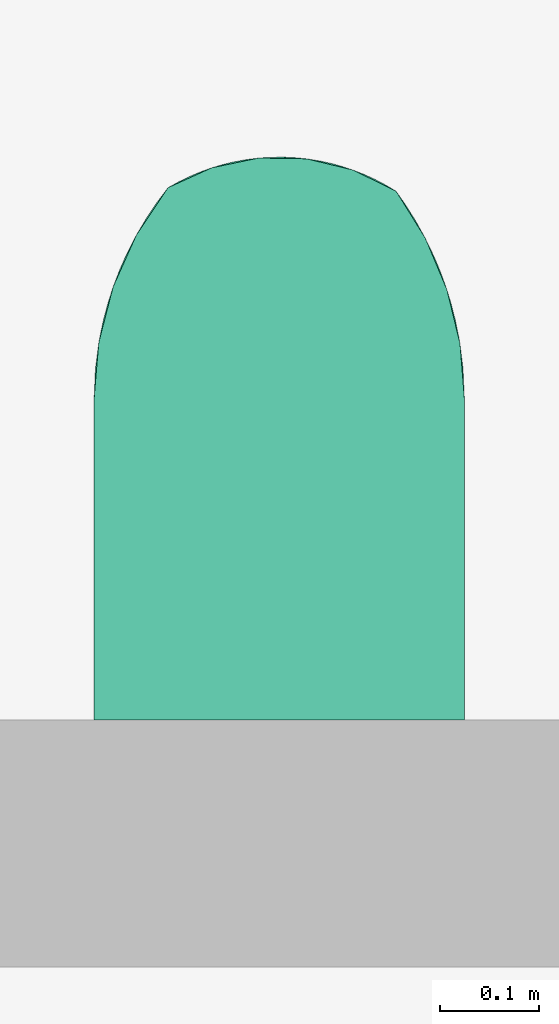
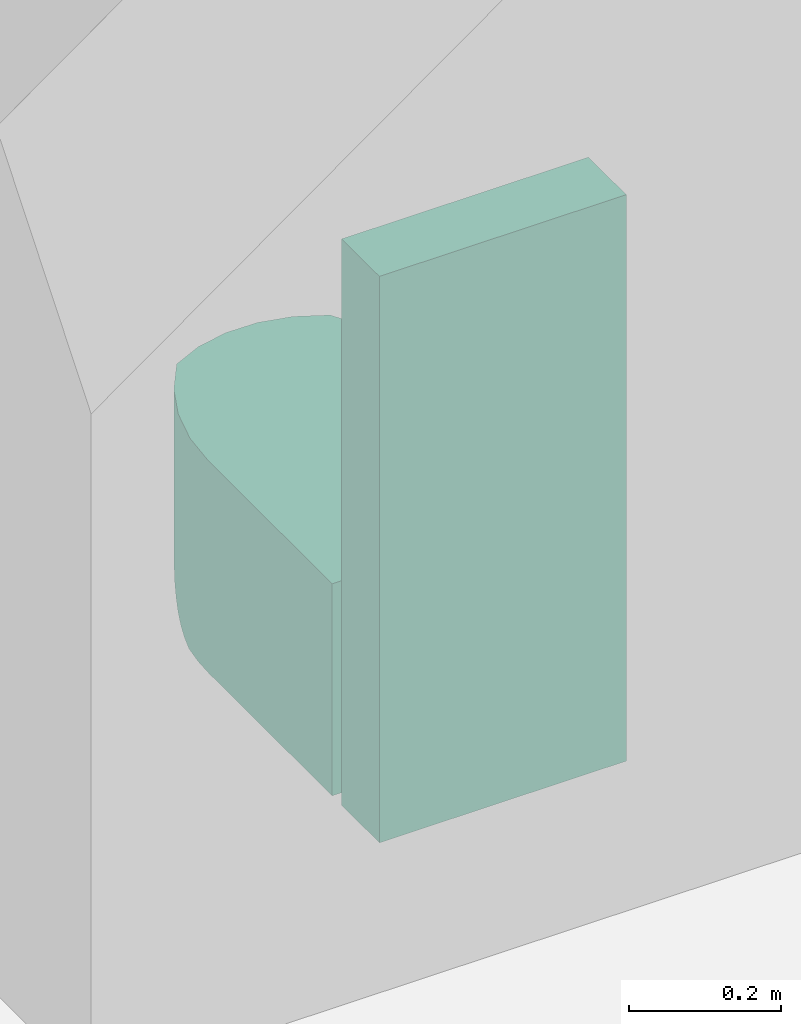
# One storey, part 34 of 37: 1 flow terminal.
"""IFC2X3 building model written with IfcOpenShell, lengths in millimetres."""

import ifcopenshell
import ifcopenshell.guid

model = None  # the IFC model being written
_history = None  # IfcOwnerHistory: only IFC2X3 demands one
_inside = {}  # id of a spatial element -> (the spatial element, [elements in it])
_under = {}  # id of a project, library or spatial element -> (it, [spatial elements below it])
_declared = {}  # id of a project -> (the project, [libraries it declares])
_typed = {}  # id of a type object -> (the type object, [elements of that type])
_made_of = {}  # id of a material, layer set ... -> (it, [elements and type objects made of it])


def new_model(schema):
    """Start an empty IFC model of exactly this schema.

    Asked for "IFC4X3", IfcOpenShell would pick the latest addendum, in which some entities
    have other attributes; the version numbers below select the first issue.
    IFC2X3 requires an IfcOwnerHistory on every rooted entity: one is made here for all.
    """
    global model, _history
    if schema == "IFC4X3":
        model = ifcopenshell.file(schema_version=(4, 3, 0, 0))
    else:
        model = ifcopenshell.file(schema=schema)
    _inside.clear()
    _under.clear()
    _declared.clear()
    _typed.clear()
    _made_of.clear()
    _history = None
    if model.schema == "IFC2X3":
        org = make("IfcOrganization", Name="unknown")
        user = make(
            "IfcPersonAndOrganization",
            ThePerson=make("IfcPerson", FamilyName="unknown"),
            TheOrganization=org,
        )
        app = make(
            "IfcApplication",
            ApplicationDeveloper=org,
            Version="unknown",
            ApplicationFullName="unknown",
            ApplicationIdentifier="unknown",
        )
        _history = make(
            "IfcOwnerHistory",
            OwningUser=user,
            OwningApplication=app,
            ChangeAction="ADDED",
            CreationDate=0,
        )
    return model


def make(cls, **values):
    """One entity of the class cls with the attributes given. An attribute that is None is left unset."""
    return model.create_entity(
        cls, **{name: value for name, value in values.items() if value is not None}
    )


def entity(cls, *values):
    """Any entity or typed value of the class cls, its attributes in the order of the schema. None: left unset."""
    e = model.create_entity(cls)
    for i, value in enumerate(values):
        if value is not None:
            e[i] = value
    return e


def rooted(cls, **values):
    """An entity with a GlobalId (a new one), such as an element, a storey or a relation."""
    return make(cls, GlobalId=ifcopenshell.guid.new(), OwnerHistory=_history, **values)


def si_unit(unit_type, name, prefix=None):
    """IfcSIUnit, for example si_unit("LENGTHUNIT", "METRE", prefix="MILLI")."""
    return make("IfcSIUnit", UnitType=unit_type, Prefix=prefix, Name=name)


def converted_unit(unit_type, name, factor, base, dimensions=None, offset=None):
    """IfcConversionBasedUnit, such as the inch: factor (a typed value) times the base unit."""
    return make(
        "IfcConversionBasedUnit"
        if offset is None
        else "IfcConversionBasedUnitWithOffset",
        ConversionOffset=offset,
        Dimensions=None
        if dimensions is None
        else entity("IfcDimensionalExponents", *dimensions),
        UnitType=unit_type,
        Name=name,
        ConversionFactor=make(
            "IfcMeasureWithUnit", ValueComponent=factor, UnitComponent=base
        ),
    )


def derived_unit(unit_type, elements):
    """IfcDerivedUnit: a product of units, each with its exponent."""
    return make(
        "IfcDerivedUnit",
        Elements=[
            make("IfcDerivedUnitElement", Unit=unit, Exponent=power)
            for unit, power in elements
        ],
        UnitType=unit_type,
    )


def assignment(units):
    """IfcUnitAssignment: the units of a project."""
    return None if units is None else make("IfcUnitAssignment", Units=units)


def point(xyz):
    """IfcCartesianPoint."""
    return None if xyz is None else make("IfcCartesianPoint", Coordinates=xyz)


def direction(xyz):
    """IfcDirection."""
    return None if xyz is None else make("IfcDirection", DirectionRatios=xyz)


def frame(location, z_axis=None, x_axis=None):
    """IfcAxis2Placement3D, a coordinate frame: its origin and axes. An axis left out is left unset."""
    return make(
        "IfcAxis2Placement3D",
        Location=point(location),
        Axis=direction(z_axis),
        RefDirection=direction(x_axis),
    )


def origin():
    """The frame at (0, 0, 0) with its axes left unset."""
    return frame((0.0, 0.0, 0.0))


def origin_with_axes():
    """The frame at (0, 0, 0) with the z axis (0, 0, 1) and the x axis (1, 0, 0) written out."""
    return frame((0.0, 0.0, 0.0), z_axis=(0.0, 0.0, 1.0), x_axis=(1.0, 0.0, 0.0))


def place(relative_to, where):
    """IfcLocalPlacement: puts the frame where relative to a parent placement (None: the world)."""
    return make(
        "IfcLocalPlacement", PlacementRelTo=relative_to, RelativePlacement=where
    )


def context(
    kind, dimensions, precision=None, world=None, true_north=None, identifier=None
):
    """IfcGeometricRepresentationContext, for example the 3D "Model" context."""
    return make(
        "IfcGeometricRepresentationContext",
        ContextIdentifier=identifier,
        ContextType=kind,
        CoordinateSpaceDimension=dimensions,
        Precision=precision,
        WorldCoordinateSystem=world,
        TrueNorth=true_north,
    )


def subcontext(parent, identifier, kind, view, scale=None):
    """IfcGeometricRepresentationSubContext, for example "Body" below "Model"."""
    return make(
        "IfcGeometricRepresentationSubContext",
        ContextIdentifier=identifier,
        ContextType=kind,
        ParentContext=parent,
        TargetScale=scale,
        TargetView=view,
    )


def project(units=None, contexts=None):
    """IfcProject with its units and contexts."""
    return rooted(
        "IfcProject",
        Name="project",
        RepresentationContexts=contexts,
        UnitsInContext=assignment(units),
    )


def spatial(cls, under=None, at=None, **own):
    """A site, building, storey or space (cls), placed at a placement, below another one or the project."""
    s = rooted(cls, ObjectPlacement=at, **own)
    if under is not None:
        _under.setdefault(under.id(), (under, []))[1].append(s)
    return s


def faces_of(points, faces, orient=None, outer=None):
    """IfcFace entities. A face is a list of loops; a loop is a list of indices into points, from 0.

    orient and outer hold one flag for each loop. By default every Orientation is true, the
    first loop of a face is its IfcFaceOuterBound and the others are IfcFaceBound.
    """
    made = []
    for i, loops in enumerate(faces):
        bounds = []
        for j, loop in enumerate(loops):
            is_outer = j == 0 if outer is None else outer[i][j]
            bounds.append(
                make(
                    "IfcFaceOuterBound" if is_outer else "IfcFaceBound",
                    Bound=make("IfcPolyLoop", Polygon=[points[k] for k in loop]),
                    Orientation=True if orient is None else orient[i][j],
                )
            )
        made.append(make("IfcFace", Bounds=bounds))
    return made


def faceted_brep(points, faces, orient=None, outer=None, voids=None):
    """IfcFacetedBrep: a solid bounded by flat faces; with voids (closed shells), ...WithVoids."""
    shared = [point(p) for p in points]
    hull = make("IfcClosedShell", CfsFaces=faces_of(shared, faces, orient, outer))
    if voids is None:
        return make("IfcFacetedBrep", Outer=hull)
    return make(
        "IfcFacetedBrepWithVoids",
        Outer=hull,
        Voids=[
            make(cls, CfsFaces=faces_of(shared, fs, o, b)) for cls, fs, o, b in voids
        ],
    )


def shape(context_of_items, identifier, shape_type, items):
    """IfcShapeRepresentation: the items that make up one representation, for example the "Body"."""
    return make(
        "IfcShapeRepresentation",
        ContextOfItems=context_of_items,
        RepresentationIdentifier=identifier,
        RepresentationType=shape_type,
        Items=items,
    )


def source(mapping_origin, context_of_items, identifier, shape_type, items):
    """IfcRepresentationMap: a shape defined once, which mapped items show again and again."""
    return make(
        "IfcRepresentationMap",
        MappingOrigin=mapping_origin,
        MappedRepresentation=shape(context_of_items, identifier, shape_type, items),
    )


def transform(
    local_origin,
    x_axis=None,
    y_axis=None,
    z_axis=None,
    scale=None,
    scale2=None,
    scale3=None,
    uniform=True,
):
    """IfcCartesianTransformationOperator3D, or its non-uniform kind. x_axis, y_axis, z_axis: its Axis1, 2, 3."""
    if uniform:
        return make(
            "IfcCartesianTransformationOperator3D",
            Axis1=direction(x_axis),
            Axis2=direction(y_axis),
            LocalOrigin=point(local_origin),
            Scale=scale,
            Axis3=direction(z_axis),
        )
    return make(
        "IfcCartesianTransformationOperator3DnonUniform",
        Axis1=direction(x_axis),
        Axis2=direction(y_axis),
        LocalOrigin=point(local_origin),
        Scale=scale,
        Axis3=direction(z_axis),
        Scale2=scale2,
        Scale3=scale3,
    )


def mapped(mapping_source, mapping_target):
    """IfcMappedItem: shows the shape of a source again, moved by a transform."""
    return make(
        "IfcMappedItem", MappingSource=mapping_source, MappingTarget=mapping_target
    )


def material(Name=None, Category=None):
    """IfcMaterial."""
    return make("IfcMaterial", Name=Name, Category=Category)


def made_of(thing, what):
    """Note that an element or type object is made of a material, layer set ...; save() writes the relation."""
    if what is not None:
        _made_of.setdefault(what.id(), (what, []))[1].append(thing)
    return thing


def type_object(cls, material=None, **own):
    """A type object (cls), such as IfcWallType, which elements share."""
    return made_of(rooted(cls, **own), material)


def element(
    cls,
    number,
    at=None,
    inside=None,
    cuts=None,
    type_object=None,
    material=None,
    context=None,
    identifier="Body",
    shape_type=None,
    held_by="IfcProductDefinitionShape",
    body=None,
    shapes=None,
    **own,
):
    """One element of the class cls, such as IfcWall. Its Tag is "e" and its number.

    at: its placement. inside: the storey or other place that contains it. cuts: it is an
    opening in that element (IfcRelVoidsElement). A single representation is given by context,
    identifier, shape_type and body (its items); several are given by shapes. held_by: the class
    of the entity that holds the representations. save() writes the other relations.
    """
    e = rooted(cls, Tag="e%d" % number, ObjectPlacement=at, **own)
    if body is not None:
        shapes = [shape(context, identifier, shape_type, body)]
    if shapes is not None:
        e.Representation = make(held_by, Representations=shapes)
    if inside is not None:
        _inside.setdefault(inside.id(), (inside, []))[1].append(e)
    if cuts is not None:
        rooted(
            "IfcRelVoidsElement", RelatingBuildingElement=cuts, RelatedOpeningElement=e
        )
    if type_object is not None:
        _typed.setdefault(type_object.id(), (type_object, []))[1].append(e)
    return made_of(e, material)


def aggregate(whole, parts):
    """IfcRelAggregates: a whole, such as a stair, and the parts it consists of."""
    return rooted("IfcRelAggregates", RelatingObject=whole, RelatedObjects=parts)


def save(model, path):
    """Write the relations noted so far, then the file.

    IfcRelAggregates (storeys below a building ...), IfcRelContainedInSpatialStructure (elements
    in a storey), IfcRelDefinesByType, IfcRelAssociatesMaterial and IfcRelDeclares: one each for
    every whole, place, type object, material and project.
    """
    for whole, parts in _under.values():
        aggregate(whole, parts)
    for where, things in _inside.values():
        rooted(
            "IfcRelContainedInSpatialStructure",
            RelatedElements=things,
            RelatingStructure=where,
        )
    for kind, things in _typed.values():
        rooted("IfcRelDefinesByType", RelatedObjects=things, RelatingType=kind)
    for what, things in _made_of.values():
        rooted("IfcRelAssociatesMaterial", RelatedObjects=things, RelatingMaterial=what)
    for by, libraries in _declared.values():
        rooted("IfcRelDeclares", RelatingContext=by, RelatedDefinitions=libraries)
    model.write(path)


model = new_model("IFC2X3")

# Units and contexts
model_context = context("Model", 3, precision=0.01, world=frame((0.0, 4.29681676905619e-09, 0.0)), true_north=direction((4.01073788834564e-13, 1.0)))
plan_context = context("Plan", 3, precision=0.01, world=frame((0.0, 4.29681676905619e-09, 0.0)), true_north=direction((4.01073788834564e-13, 1.0)))
body_context = subcontext(model_context, "Body", "Model", "MODEL_VIEW")
ifc_project = project(units=[converted_unit("PLANEANGLEUNIT", "DEGREE", entity("IfcPositiveLengthMeasure", 0.0174532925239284), si_unit("PLANEANGLEUNIT", "RADIAN"), dimensions=[0, 0, 0, 0, 0, 0, 0]), si_unit("AREAUNIT", "SQUARE_METRE"), si_unit("LENGTHUNIT", "METRE", prefix="MILLI"), si_unit("MASSUNIT", "GRAM", prefix="KILO"), si_unit("POWERUNIT", "WATT"), si_unit("PRESSUREUNIT", "PASCAL"), si_unit("FORCEUNIT", "NEWTON", prefix="KILO"), si_unit("ELECTRICVOLTAGEUNIT", "VOLT"), si_unit("ELECTRICCURRENTUNIT", "AMPERE"), si_unit("THERMODYNAMICTEMPERATUREUNIT", "DEGREE_CELSIUS"), si_unit("TIMEUNIT", "SECOND"), si_unit("VOLUMEUNIT", "CUBIC_METRE"), derived_unit("LINEARVELOCITYUNIT", [(si_unit("LENGTHUNIT", "METRE"), 1), (si_unit("TIMEUNIT", "SECOND"), -1)]), derived_unit("VOLUMETRICFLOWRATEUNIT", [(si_unit("VOLUMEUNIT", "CUBIC_METRE"), 1), (si_unit("TIMEUNIT", "SECOND"), -1)]), derived_unit("THERMALTRANSMITTANCEUNIT", [(si_unit("POWERUNIT", "WATT"), 1), (si_unit("THERMODYNAMICTEMPERATUREUNIT", "KELVIN"), -1), (si_unit("AREAUNIT", "SQUARE_METRE"), -1)]), derived_unit("SOUNDPRESSUREUNIT", [(si_unit("PRESSUREUNIT", "PASCAL"), 1)])], contexts=[model_context, plan_context])

# Site, building, storey
site_placement = place(None, origin_with_axes())
site = spatial("IfcSite", under=ifc_project, at=site_placement, Name="ENGM", CompositionType="ELEMENT")
building_placement = place(site_placement, origin_with_axes())
building = spatial("IfcBuilding", under=site, at=building_placement, Name="TS", CompositionType="ELEMENT")
storey_placement = place(building_placement, frame((0.0, 0.0, 210900.0), z_axis=(0.0, 0.0, 1.0), x_axis=(1.0, 0.0, 0.0)))
storey = spatial("IfcBuildingStorey", under=building, at=storey_placement, Name="Nivå F", CompositionType="ELEMENT", Elevation=210900.0)

# Flow terminal
ifc_material = material(Name="<Unnamed>")
distribution_element_type = type_object("IfcDistributionElementType", Name="V313 - WC vegghengt kompakt:A313 - WC vegghengt kompakt - 375 x 570 mm", material=ifc_material)
shared_shape = source(origin(), body_context, "Body", "Brep", [
    faceted_brep([(152.638753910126, 693.256243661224, -210610.301735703), (199.83356795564, 681.875792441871, -210610.301735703), (243.381359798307, 660.417577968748, -210610.301735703), (273.042360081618, 612.621845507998, -210610.301735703), (294.777786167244, 560.739495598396, -210610.301735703), (308.041436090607, 506.074309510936, -210610.301735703), (312.499999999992, 450.0, -210610.301735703), (312.499999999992, 125.0, -210610.301735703), (-62.500000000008, 125.0, -210610.301735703), (-62.5000000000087, 450.0, -210610.301735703), (-57.650228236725, 507.488184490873, -210610.301735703), (-43.2379969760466, 563.351403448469, -210610.301735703), (-19.6706834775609, 616.010622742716, -210610.301735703), (12.3855567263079, 663.977372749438, -210610.301735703), (56.573882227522, 684.083516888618, -210610.301735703), (104.096962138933, 694.004304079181, -210610.301735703), (312.499999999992, 450.0, -210559.4), (312.499999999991, 125.0, -210559.4), (-62.500000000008, 125.0, -210559.4), (308.041436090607, 506.074309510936, -210559.4), (294.777786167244, 560.739495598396, -210559.4), (273.042360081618, 612.621845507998, -210559.4), (243.381359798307, 660.417577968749, -210559.4), (199.83356795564, 681.875792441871, -210559.4), (152.638753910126, 693.256243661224, -210559.4), (104.096962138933, 694.004304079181, -210559.4), (56.573882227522, 684.083516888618, -210559.4), (12.3855567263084, 663.977372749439, -210559.4), (-19.6706834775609, 616.010622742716, -210559.4), (-43.2379969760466, 563.351403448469, -210559.4), (-57.650228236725, 507.488184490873, -210559.4), (-62.5000000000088, 450.0, -210559.4)], [[[0, 1, 2, 3, 4, 5, 6, 7, 8, 9, 10, 11, 12, 13, 14, 15]], [[16, 17, 7, 6]], [[18, 17, 16, 19, 20, 21, 22, 23, 24, 25, 26, 27, 28, 29, 30, 31]], [[27, 13, 12, 28]], [[29, 28, 12, 11]], [[10, 9, 31, 30]], [[10, 30, 29, 11]], [[18, 31, 9, 8]], [[5, 4, 20, 19]], [[5, 19, 16, 6]], [[3, 2, 22, 21]], [[3, 21, 20, 4]], [[23, 22, 2, 1]], [[24, 23, 1, 0]], [[0, 15, 25, 24]], [[14, 13, 27, 26]], [[15, 14, 26, 25]], [[17, 18, 8, 7]]]),
    faceted_brep([(273.042360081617, 612.621845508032, -210610.301735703), (243.381359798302, 660.417577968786, -210610.301735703), (199.833567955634, 681.875792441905, -210610.301735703), (152.638753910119, 693.256243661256, -210610.301735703), (140.50330596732, 693.443258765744, -210610.301735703), (134.435581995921, 693.536766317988, -210610.301735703), (131.401720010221, 693.58352009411, -210610.301735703), (129.884789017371, 693.606896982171, -210610.301735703), (128.367858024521, 693.630273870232, -210610.301735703), (125.333996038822, 693.677027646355, -210610.301735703), (122.300134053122, 693.723781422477, -210610.301735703), (116.232410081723, 693.817288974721, -210610.301735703), (110.164686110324, 693.910796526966, -210610.301735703), (104.096962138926, 694.004304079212, -210610.301735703), (80.3354221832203, 689.043910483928, -210610.301735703), (56.5738822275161, 684.083516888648, -210610.301735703), (12.3855567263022, 663.977372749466, -210610.301735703), (-19.6706834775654, 616.010622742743, -210610.301735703), (-43.2379969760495, 563.351403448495, -210610.301735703), (-57.6502282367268, 507.4881844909, -210610.301735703), (-62.5000000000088, 450.0, -210610.301735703), (-62.500000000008, 125.0, -210610.301735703), (312.499999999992, 125.0, -210610.301735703), (312.499999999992, 450.0, -210610.301735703), (308.041436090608, 506.074309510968, -210610.301735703), (294.777786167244, 560.739495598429, -210610.301735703), (-61.1031175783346, 480.93110005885, -210900.010758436), (-48.1437180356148, 548.217375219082, -210887.564946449), (-42.7067744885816, 564.858056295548, -210878.177732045), (-52.9502459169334, 530.391694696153, -210894.898032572), (-62.5000000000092, 450.0, -210900.010758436), (-56.9238430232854, 511.610374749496, -210900.010758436), (1.74503360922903, 649.910275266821, -210776.42460517), (-9.31195687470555, 633.505127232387, -210803.762452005), (12.3855567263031, 663.977372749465, -210747.660169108), (12.3855567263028, 663.977372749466, -210682.93536077), (12.3855567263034, 663.977372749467, -210715.297764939), (-36.868116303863, 580.131619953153, -210866.90008785), (-30.8780924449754, 593.882788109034, -210853.885845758), (-20.3272252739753, 614.817316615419, -210829.611974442), (-62.500000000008, 125.0, -210900.010758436), (312.499999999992, 125.0, -210900.010758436), (307.110499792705, 511.610374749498, -210900.010758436), (311.150057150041, 480.922827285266, -210900.010758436), (312.499999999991, 450.0, -210900.010758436), (303.278596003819, 530.369907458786, -210894.905452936), (298.644927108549, 548.187936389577, -210887.579243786), (293.405556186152, 564.8328156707, -210878.19408601), (287.782756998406, 580.117972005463, -210866.911512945), (282.020191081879, 593.882788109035, -210853.885845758), (272.606520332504, 613.464345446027, -210831.31404652), (262.803503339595, 631.106218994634, -210807.353062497), (243.381359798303, 660.417577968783, -210755.556395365), (232.95014859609, 666.681267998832, -210741.312497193), (22.9359172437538, 669.880572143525, -210733.347484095), (252.94345421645, 646.77352419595, -210782.079772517), (222.311477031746, 672.297801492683, -210726.950463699), (33.678414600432, 675.142004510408, -210718.928318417), (211.491347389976, 677.277240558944, -210712.489897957), (55.6518587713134, 683.779385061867, -210689.840668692), (200.510965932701, 681.62939388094, -210697.948002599), (44.5902870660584, 679.771967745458, -210704.419997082), (66.8490827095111, 687.172272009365, -210675.209194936), (189.38792267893, 685.362721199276, -210683.343205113), (166.745860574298, 691.001317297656, -210654.035518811), (78.1763153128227, 689.957302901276, -210660.549818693), (89.6481636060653, 692.139901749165, -210645.90124219), (101.344093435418, 693.723958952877, -210631.353364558), (155.192255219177, 692.917543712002, -210639.414516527), (178.133260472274, 688.484643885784, -210668.696158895), (113.689638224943, 694.708952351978, -210617.300227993), (143.314059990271, 694.236080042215, -210624.98926797), (131.627520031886, 694.855599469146, -210613.580281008), (133.297025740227, 694.76709669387, -210615.210136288), (136.636037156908, 694.590091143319, -210618.469846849), (117.756732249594, 694.767739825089, -210615.962777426), (121.823826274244, 694.8265272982, -210614.62532686), (125.890920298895, 694.885314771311, -210613.287876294), (127.92446731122, 694.914708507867, -210612.619151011), (129.958014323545, 694.944102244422, -210611.950425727), (243.381359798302, 660.417577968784, -210690.831598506), (243.381359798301, 660.417577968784, -210723.193996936)], [[[0, 1, 2, 3, 4, 5, 6, 7, 8, 9, 10, 11, 12, 13, 14, 15, 16, 17, 18, 19, 20, 21, 22, 23, 24, 25]], [[26, 20, 19]], [[27, 18, 28]], [[18, 27, 19]], [[29, 19, 27]], [[30, 20, 26]], [[31, 26, 19]], [[29, 31, 19]], [[17, 32, 33]], [[32, 17, 34]], [[17, 16, 35, 36, 34]], [[18, 37, 28]], [[37, 18, 38]], [[39, 38, 18]], [[17, 33, 39]], [[17, 39, 18]], [[22, 21, 40, 41]], [[30, 40, 21, 20]], [[26, 31, 42, 43, 44, 41, 40, 30]], [[23, 22, 41, 44]], [[42, 31, 29]], [[45, 29, 27]], [[29, 45, 42]], [[45, 27, 46]], [[27, 28, 46]], [[47, 28, 37]], [[48, 37, 38]], [[37, 48, 47]], [[48, 38, 49]], [[28, 47, 46]], [[39, 50, 38]], [[33, 51, 39]], [[52, 32, 34]], [[53, 34, 54]], [[33, 32, 55]], [[56, 54, 57]], [[39, 51, 50]], [[50, 49, 38]], [[52, 34, 53]], [[55, 32, 52]], [[55, 51, 33]], [[54, 56, 53]], [[57, 58, 56]], [[59, 60, 61]], [[62, 63, 59]], [[64, 65, 66]], [[66, 67, 68]], [[62, 65, 69]], [[70, 71, 67]], [[69, 63, 62]], [[60, 59, 63]], [[61, 60, 58]], [[71, 68, 67]], [[64, 66, 68]], [[64, 69, 65]], [[72, 73, 74, 71, 70, 75, 76, 77, 78, 79]], [[61, 58, 57]], [[15, 59, 35]], [[14, 13, 67]], [[15, 14, 65]], [[67, 13, 70]], [[67, 66, 14]], [[9, 8, 78]], [[80, 81, 56]], [[70, 13, 12, 11]], [[16, 15, 35]], [[54, 36, 57]], [[5, 72, 6]], [[10, 75, 11]], [[56, 81, 53]], [[59, 61, 35]], [[79, 8, 7, 6]], [[61, 57, 35]], [[5, 74, 73, 72]], [[15, 62, 59]], [[15, 65, 62]], [[65, 14, 66]], [[79, 6, 72]], [[71, 4, 3]], [[71, 3, 68]], [[11, 75, 70]], [[64, 2, 69]], [[54, 34, 36]], [[68, 3, 64]], [[1, 80, 2]], [[64, 3, 2]], [[4, 71, 74]], [[2, 60, 63]], [[63, 69, 2]], [[77, 76, 75, 10]], [[80, 58, 60]], [[8, 79, 78]], [[58, 80, 56]], [[80, 60, 2]], [[78, 77, 9]], [[52, 53, 81]], [[4, 74, 5]], [[77, 10, 9]], [[36, 35, 57]], [[0, 52, 81, 80, 1]], [[55, 0, 51]], [[0, 55, 52]], [[51, 0, 50]], [[25, 49, 50]], [[25, 48, 49]], [[25, 50, 0]], [[46, 47, 25]], [[25, 47, 48]], [[46, 25, 24]], [[43, 24, 23]], [[46, 24, 45]], [[24, 42, 45]], [[43, 42, 24]], [[23, 44, 43]]]),
    faceted_brep([(-62.500000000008, 100.0, -209990.184104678), (312.499999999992, 100.0, -209990.184104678), (312.499999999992, 100.0, -210900.010758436), (-62.500000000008, 100.0, -210900.010758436), (312.499999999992, 0.545755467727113, -209990.184104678), (312.499999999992, 0.545755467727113, -210900.010758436), (-62.500000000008, 0.545755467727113, -209990.184104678), (-62.500000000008, 0.545755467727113, -210900.010758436)], [[[0, 1, 2, 3]], [[1, 4, 5, 2]], [[1, 0, 6, 4]], [[2, 5, 7, 3]], [[6, 0, 3, 7]], [[4, 6, 7, 5]]]),
])
flow_terminal_placement = place(storey_placement, frame((535269.999999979, 456807.300000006, 211039.410758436), z_axis=(0.0, 0.0, 1.0), x_axis=(1.0, 0.0, 0.0)))
element("IfcFlowTerminal", 1, at=flow_terminal_placement, inside=storey, type_object=distribution_element_type, material=ifc_material, Name="V313 - WC vegghengt kompakt:A313 - WC vegghengt kompakt - 375 x 570 mm", ObjectType="V313 - WC vegghengt kompakt:A313 - WC vegghengt kompakt - 375 x 570 mm", context=body_context, shape_type="MappedRepresentation", body=[
    mapped(shared_shape, transform((0.0, 0.0, 0.0), scale=1.0)),
])

save(model, "model.ifc")
